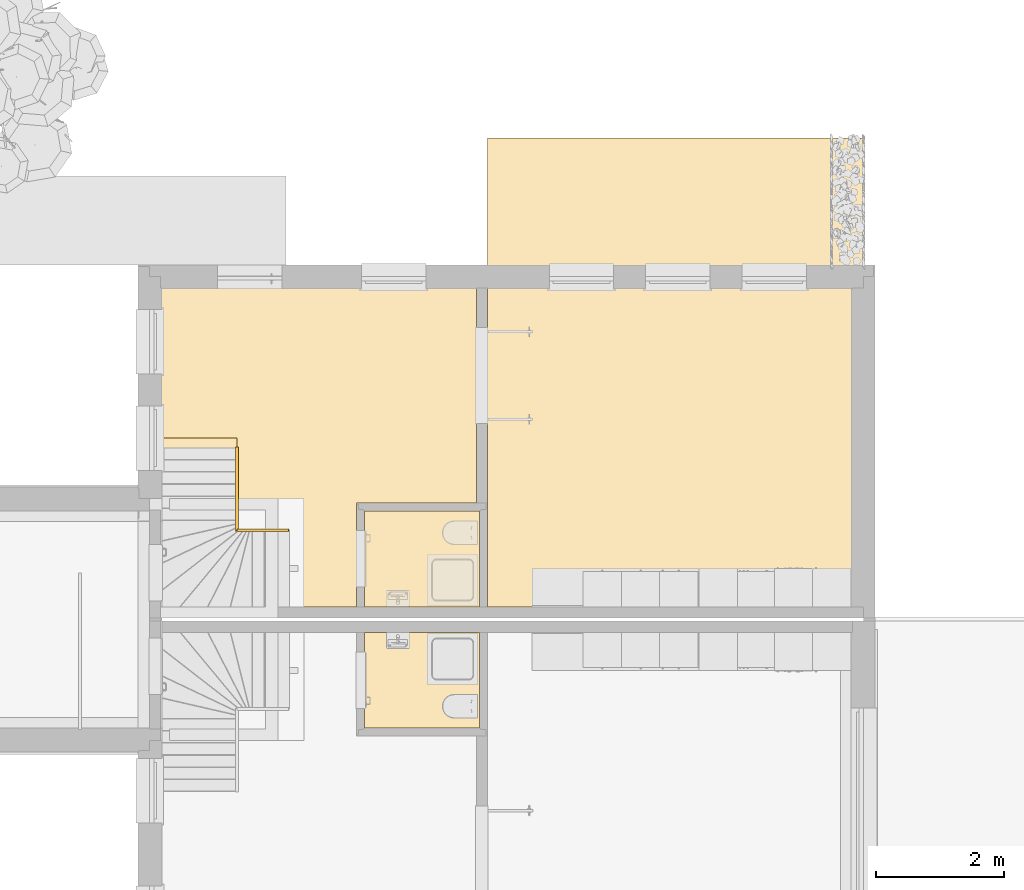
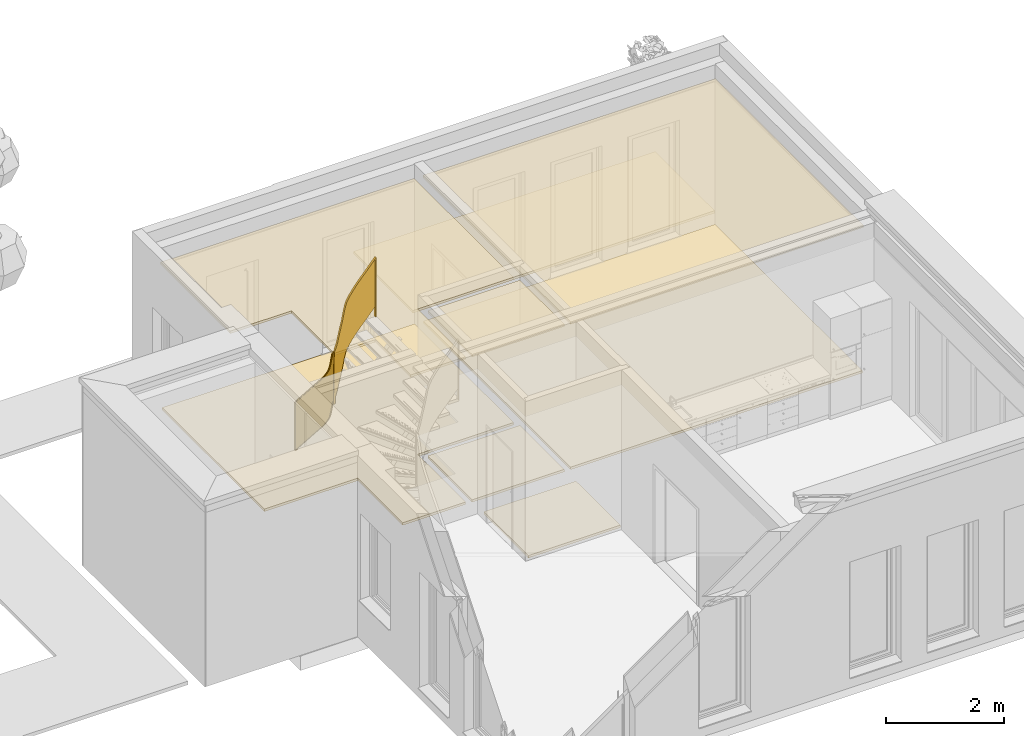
# One storey, part 11 of 28: 7 coverings, 1 railing.
"""IFC4 building model written with IfcOpenShell, lengths in metres."""

import ifcopenshell
import ifcopenshell.guid

model = None  # the IFC model being written
_history = None  # IfcOwnerHistory: only IFC2X3 demands one
_inside = {}  # id of a spatial element -> (the spatial element, [elements in it])
_under = {}  # id of a project, library or spatial element -> (it, [spatial elements below it])
_declared = {}  # id of a project -> (the project, [libraries it declares])
_typed = {}  # id of a type object -> (the type object, [elements of that type])
_made_of = {}  # id of a material, layer set ... -> (it, [elements and type objects made of it])


def new_model(schema):
    """Start an empty IFC model of exactly this schema.

    Asked for "IFC4X3", IfcOpenShell would pick the latest addendum, in which some entities
    have other attributes; the version numbers below select the first issue.
    IFC2X3 requires an IfcOwnerHistory on every rooted entity: one is made here for all.
    """
    global model, _history
    if schema == "IFC4X3":
        model = ifcopenshell.file(schema_version=(4, 3, 0, 0))
    else:
        model = ifcopenshell.file(schema=schema)
    _inside.clear()
    _under.clear()
    _declared.clear()
    _typed.clear()
    _made_of.clear()
    _history = None
    if model.schema == "IFC2X3":
        org = make("IfcOrganization", Name="unknown")
        user = make(
            "IfcPersonAndOrganization",
            ThePerson=make("IfcPerson", FamilyName="unknown"),
            TheOrganization=org,
        )
        app = make(
            "IfcApplication",
            ApplicationDeveloper=org,
            Version="unknown",
            ApplicationFullName="unknown",
            ApplicationIdentifier="unknown",
        )
        _history = make(
            "IfcOwnerHistory",
            OwningUser=user,
            OwningApplication=app,
            ChangeAction="ADDED",
            CreationDate=0,
        )
    return model


def make(cls, **values):
    """One entity of the class cls with the attributes given. An attribute that is None is left unset."""
    return model.create_entity(
        cls, **{name: value for name, value in values.items() if value is not None}
    )


def entity(cls, *values):
    """Any entity or typed value of the class cls, its attributes in the order of the schema. None: left unset."""
    e = model.create_entity(cls)
    for i, value in enumerate(values):
        if value is not None:
            e[i] = value
    return e


def rooted(cls, **values):
    """An entity with a GlobalId (a new one), such as an element, a storey or a relation."""
    return make(cls, GlobalId=ifcopenshell.guid.new(), OwnerHistory=_history, **values)


def si_unit(unit_type, name, prefix=None):
    """IfcSIUnit, for example si_unit("LENGTHUNIT", "METRE", prefix="MILLI")."""
    return make("IfcSIUnit", UnitType=unit_type, Prefix=prefix, Name=name)


def converted_unit(unit_type, name, factor, base, dimensions=None, offset=None):
    """IfcConversionBasedUnit, such as the inch: factor (a typed value) times the base unit."""
    return make(
        "IfcConversionBasedUnit"
        if offset is None
        else "IfcConversionBasedUnitWithOffset",
        ConversionOffset=offset,
        Dimensions=None
        if dimensions is None
        else entity("IfcDimensionalExponents", *dimensions),
        UnitType=unit_type,
        Name=name,
        ConversionFactor=make(
            "IfcMeasureWithUnit", ValueComponent=factor, UnitComponent=base
        ),
    )


def derived_unit(unit_type, elements):
    """IfcDerivedUnit: a product of units, each with its exponent."""
    return make(
        "IfcDerivedUnit",
        Elements=[
            make("IfcDerivedUnitElement", Unit=unit, Exponent=power)
            for unit, power in elements
        ],
        UnitType=unit_type,
    )


def assignment(units):
    """IfcUnitAssignment: the units of a project."""
    return None if units is None else make("IfcUnitAssignment", Units=units)


def point(xyz):
    """IfcCartesianPoint."""
    return None if xyz is None else make("IfcCartesianPoint", Coordinates=xyz)


def direction(xyz):
    """IfcDirection."""
    return None if xyz is None else make("IfcDirection", DirectionRatios=xyz)


def frame(location, z_axis=None, x_axis=None):
    """IfcAxis2Placement3D, a coordinate frame: its origin and axes. An axis left out is left unset."""
    return make(
        "IfcAxis2Placement3D",
        Location=point(location),
        Axis=direction(z_axis),
        RefDirection=direction(x_axis),
    )


def origin_with_axes():
    """The frame at (0, 0, 0) with the z axis (0, 0, 1) and the x axis (1, 0, 0) written out."""
    return frame((0.0, 0.0, 0.0), z_axis=(0.0, 0.0, 1.0), x_axis=(1.0, 0.0, 0.0))


def place(relative_to, where):
    """IfcLocalPlacement: puts the frame where relative to a parent placement (None: the world)."""
    return make(
        "IfcLocalPlacement", PlacementRelTo=relative_to, RelativePlacement=where
    )


def context(
    kind, dimensions, precision=None, world=None, true_north=None, identifier=None
):
    """IfcGeometricRepresentationContext, for example the 3D "Model" context."""
    return make(
        "IfcGeometricRepresentationContext",
        ContextIdentifier=identifier,
        ContextType=kind,
        CoordinateSpaceDimension=dimensions,
        Precision=precision,
        WorldCoordinateSystem=world,
        TrueNorth=true_north,
    )


def subcontext(parent, identifier, kind, view, scale=None):
    """IfcGeometricRepresentationSubContext, for example "Body" below "Model"."""
    return make(
        "IfcGeometricRepresentationSubContext",
        ContextIdentifier=identifier,
        ContextType=kind,
        ParentContext=parent,
        TargetScale=scale,
        TargetView=view,
    )


def project(units=None, contexts=None):
    """IfcProject with its units and contexts."""
    return rooted(
        "IfcProject",
        Name="project",
        RepresentationContexts=contexts,
        UnitsInContext=assignment(units),
    )


def spatial(cls, under=None, at=None, **own):
    """A site, building, storey or space (cls), placed at a placement, below another one or the project."""
    s = rooted(cls, ObjectPlacement=at, **own)
    if under is not None:
        _under.setdefault(under.id(), (under, []))[1].append(s)
    return s


def point_list(points):
    """IfcCartesianPointList2D or 3D."""
    cls = (
        "IfcCartesianPointList2D" if len(points[0]) == 2 else "IfcCartesianPointList3D"
    )
    return make(cls, CoordList=points)


def triangles(points, corners, closed=None, point_numbers=None):
    """IfcTriangulatedFaceSet: each triangle names its three corners, points numbered from 1."""
    return make(
        "IfcTriangulatedFaceSet",
        Coordinates=point_list(points),
        Closed=closed,
        CoordIndex=corners,
        PnIndex=point_numbers,
    )


def shape(context_of_items, identifier, shape_type, items):
    """IfcShapeRepresentation: the items that make up one representation, for example the "Body"."""
    return make(
        "IfcShapeRepresentation",
        ContextOfItems=context_of_items,
        RepresentationIdentifier=identifier,
        RepresentationType=shape_type,
        Items=items,
    )


def material(Name=None, Category=None):
    """IfcMaterial."""
    return make("IfcMaterial", Name=Name, Category=Category)


def constituent(of_material, Name=None, Category=None, fraction=None):
    """IfcMaterialConstituent: one of the materials an element consists of."""
    return make(
        "IfcMaterialConstituent",
        Name=Name,
        Material=of_material,
        Fraction=fraction,
        Category=Category,
    )


def constituent_set(constituents=None, Name=None):
    """IfcMaterialConstituentSet."""
    return make(
        "IfcMaterialConstituentSet", Name=Name, MaterialConstituents=constituents
    )


def made_of(thing, what):
    """Note that an element or type object is made of a material, layer set ...; save() writes the relation."""
    if what is not None:
        _made_of.setdefault(what.id(), (what, []))[1].append(thing)
    return thing


def type_object(cls, material=None, **own):
    """A type object (cls), such as IfcWallType, which elements share."""
    return made_of(rooted(cls, **own), material)


def element(
    cls,
    number,
    at=None,
    inside=None,
    cuts=None,
    type_object=None,
    material=None,
    context=None,
    identifier="Body",
    shape_type=None,
    held_by="IfcProductDefinitionShape",
    body=None,
    shapes=None,
    **own,
):
    """One element of the class cls, such as IfcWall. Its Tag is "e" and its number.

    at: its placement. inside: the storey or other place that contains it. cuts: it is an
    opening in that element (IfcRelVoidsElement). A single representation is given by context,
    identifier, shape_type and body (its items); several are given by shapes. held_by: the class
    of the entity that holds the representations. save() writes the other relations.
    """
    e = rooted(cls, Tag="e%d" % number, ObjectPlacement=at, **own)
    if body is not None:
        shapes = [shape(context, identifier, shape_type, body)]
    if shapes is not None:
        e.Representation = make(held_by, Representations=shapes)
    if inside is not None:
        _inside.setdefault(inside.id(), (inside, []))[1].append(e)
    if cuts is not None:
        rooted(
            "IfcRelVoidsElement", RelatingBuildingElement=cuts, RelatedOpeningElement=e
        )
    if type_object is not None:
        _typed.setdefault(type_object.id(), (type_object, []))[1].append(e)
    return made_of(e, material)


def aggregate(whole, parts):
    """IfcRelAggregates: a whole, such as a stair, and the parts it consists of."""
    return rooted("IfcRelAggregates", RelatingObject=whole, RelatedObjects=parts)


def save(model, path):
    """Write the relations noted so far, then the file.

    IfcRelAggregates (storeys below a building ...), IfcRelContainedInSpatialStructure (elements
    in a storey), IfcRelDefinesByType, IfcRelAssociatesMaterial and IfcRelDeclares: one each for
    every whole, place, type object, material and project.
    """
    for whole, parts in _under.values():
        aggregate(whole, parts)
    for where, things in _inside.values():
        rooted(
            "IfcRelContainedInSpatialStructure",
            RelatedElements=things,
            RelatingStructure=where,
        )
    for kind, things in _typed.values():
        rooted("IfcRelDefinesByType", RelatedObjects=things, RelatingType=kind)
    for what, things in _made_of.values():
        rooted("IfcRelAssociatesMaterial", RelatedObjects=things, RelatingMaterial=what)
    for by, libraries in _declared.values():
        rooted("IfcRelDeclares", RelatingContext=by, RelatedDefinitions=libraries)
    model.write(path)


model = new_model("IFC4")

# Units and contexts
model_context = context("Model", 3, precision=1e-05, world=origin_with_axes(), true_north=direction((-0.526213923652, 0.850352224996)))
body_context = subcontext(model_context, "Body", "Model", "MODEL_VIEW")
ifc_project = project(units=[si_unit("LENGTHUNIT", "METRE"), si_unit("AREAUNIT", "SQUARE_METRE"), si_unit("VOLUMEUNIT", "CUBIC_METRE"), converted_unit("PLANEANGLEUNIT", "DEGREE", entity("IfcPlaneAngleMeasure", 0.0174532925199), si_unit("PLANEANGLEUNIT", "RADIAN"), dimensions=[0, 0, 0, 0, 0, 0, 0]), si_unit("SOLIDANGLEUNIT", "STERADIAN"), converted_unit("TIMEUNIT", "Year", entity("IfcTimeMeasure", 31556926.0), si_unit("TIMEUNIT", "SECOND"), dimensions=[0, 0, 1, 0, 0, 0, 0]), si_unit("MASSUNIT", "GRAM", prefix="KILO"), si_unit("THERMODYNAMICTEMPERATUREUNIT", "DEGREE_CELSIUS"), si_unit("LUMINOUSINTENSITYUNIT", "LUMEN"), si_unit("ENERGYUNIT", "JOULE", prefix="MEGA"), derived_unit("THERMALCONDUCTANCEUNIT", [(si_unit("POWERUNIT", "WATT"), 1), (si_unit("LENGTHUNIT", "METRE"), -1), (si_unit("THERMODYNAMICTEMPERATUREUNIT", "KELVIN"), -1)]), derived_unit("SPECIFICHEATCAPACITYUNIT", [(si_unit("ENERGYUNIT", "JOULE"), 1), (si_unit("MASSUNIT", "GRAM", prefix="KILO"), -1), (si_unit("THERMODYNAMICTEMPERATUREUNIT", "KELVIN"), -1)]), derived_unit("MASSDENSITYUNIT", [(si_unit("MASSUNIT", "GRAM", prefix="KILO"), 1), (si_unit("VOLUMEUNIT", "CUBIC_METRE"), -1)])], contexts=[model_context])

# Site, building, storey, space
site_placement = place(None, origin_with_axes())
site = spatial("IfcSite", under=ifc_project, at=site_placement, Name="Gelände", CompositionType="ELEMENT")
building_placement = place(site_placement, origin_with_axes())
building = spatial("IfcBuilding", under=site, at=building_placement, Name="Haus vom Nikolaus", CompositionType="ELEMENT")
storey_placement = place(building_placement, origin_with_axes())
storey = spatial("IfcBuildingStorey", under=building, at=storey_placement, Name="EG", CompositionType="ELEMENT", Elevation=0.0)
space_placement = place(storey_placement, frame((-3.09538684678, 5.36483190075, 0.0), z_axis=(0.0, 0.0, 1.0), x_axis=(1.0, 0.0, 0.0)))
space = spatial("IfcSpace", under=storey, at=space_placement, Name="EG", CompositionType="ELEMENT")

# Railing
ifc_material_1 = material(Name="Metall, Stahl lackiert")
ifc_constituent_1 = constituent(ifc_material_1, Name="Component 1 in Geländer-Pfosten-001")
ifc_constituent_2 = constituent(ifc_material_1, Name="Component 1 in Geländer-Pfosten-001")
ifc_constituent_3 = constituent(ifc_material_1, Name="Component 1 in Geländer-Pfosten-001")
ifc_constituent_4 = constituent(ifc_material_1, Name="Component 1 in Geländer-Handlauf-001")
ifc_material_2 = material(Name="Glas, Normalglas")
ifc_constituent_5 = constituent(ifc_material_2, Name="Component 1 in Geländer-Paneel-001")
ifc_constituent_6 = constituent(ifc_material_1, Name="Component 1 in Geländer-Handlauf-001")
ifc_constituent_7 = constituent(ifc_material_2, Name="Component 1 in Geländer-Paneel-001")
ifc_constituent_set_1 = constituent_set(constituents=[ifc_constituent_1, ifc_constituent_2, ifc_constituent_3, ifc_constituent_4, ifc_constituent_5, ifc_constituent_6, ifc_constituent_7])
railing_type = type_object("IfcRailingType", Name="Geländerart", PredefinedType="NOTDEFINED")
railing_placement = place(space_placement, frame((4.53538446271, 4.93519889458, 0.2), z_axis=(0.0, 0.0, 1.0), x_axis=(1.0, 0.0, 0.0)))
element("IfcRailing", 1, at=railing_placement, inside=space, type_object=railing_type, material=ifc_constituent_set_1, Name="Geländer-003", PredefinedType="NOTDEFINED", context=body_context, shape_type="Tessellation", body=[
    triangles([(0.0228843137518, -0.167698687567, 1.22623247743), (-0.0221156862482, -0.167698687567, 0.217647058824), (0.0228843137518, -0.167698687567, 0.217647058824), (-0.0221156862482, -0.167698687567, 1.22623247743), (0.0228843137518, -0.152698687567, 0.217647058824), (-0.0221156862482, -0.152698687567, 0.217647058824), (0.0228843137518, -0.152698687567, 1.20906164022), (-0.0221156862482, -0.152698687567, 1.20906164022)], [[1, 2, 3], [1, 4, 2], [5, 2, 6], [5, 3, 2], [7, 3, 5], [7, 1, 3], [7, 4, 1], [7, 8, 4], [8, 2, 4], [2, 8, 6], [8, 5, 6], [8, 7, 5]], closed=True),
    triangles([(0.0198481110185, -1.45641113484, 3.07528367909), (-0.0221156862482, -1.46769876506, 1.95882352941), (0.0228843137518, -1.46769876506, 1.95882352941), (0.0228843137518, -1.45269876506, 1.95882352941), (-0.0221156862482, -1.45269876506, 1.95882352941), (0.0198481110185, -1.44141113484, 3.05868012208), (-0.0190794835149, -1.47898639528, 3.05488871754), (-0.0190794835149, -1.46398639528, 3.03828516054)], [[1, 2, 3], [4, 2, 5], [4, 3, 2], [1, 3, 6], [7, 2, 1], [7, 5, 2], [8, 4, 5], [6, 3, 4], [8, 1, 6], [1, 8, 7], [8, 5, 7], [6, 4, 8]], closed=True),
    triangles([(0.807500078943, -1.43769881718, 4.70858541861), (0.807500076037, -1.48269881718, 3.48235294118), (0.807500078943, -1.43769881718, 3.48235294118), (0.807500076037, -1.48269881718, 4.70858541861), (0.792500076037, -1.48269881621, 3.48235294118), (0.792500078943, -1.43769881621, 3.48235294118), (0.792500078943, -1.43769881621, 4.69141458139), (0.792500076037, -1.48269881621, 4.69141458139)], [[1, 2, 3], [1, 4, 2], [3, 5, 6], [5, 3, 2], [7, 3, 6], [7, 1, 3], [8, 1, 7], [1, 8, 4], [8, 2, 4], [2, 8, 5], [8, 6, 5], [8, 7, 6]], closed=True),
    triangles([(-0.0221156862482, -1.41002097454, 2.95882352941), (0.0228843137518, -1.45825174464, 3.0529832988), (0.0228843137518, -1.41002097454, 2.95882352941), (-0.0221156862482, -1.46214578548, 3.06058554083), (0.0228843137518, -1.47319547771, 3.04925529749), (-0.0221156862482, -1.47708951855, 3.05685753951), (0.0228843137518, -1.42414016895, 2.95348580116), (0.0228843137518, -1.34465327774, 2.65493017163), (0.0228843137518, -1.33046412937, 2.65983797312), (0.0228843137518, -1.36804933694, 2.73335897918), (0.0228843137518, -1.30098379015, 2.58518521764), (0.0228843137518, -1.25734850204, 2.4801020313), (0.0228843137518, -1.24470440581, 2.48819885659), (0.0228843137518, -1.19165868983, 2.38678134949), (0.0228843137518, -1.1225377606, 2.29646937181), (0.0228843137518, -1.11085293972, 2.30588235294), (0.0228843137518, -1.17956512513, 2.39566027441), (0.0228843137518, -1.02880457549, 2.1858611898), (0.0228843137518, -0.93194474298, 2.07828216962), (0.0228843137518, -1.01750654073, 2.19573059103), (0.0228843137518, -0.920722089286, 2.08823529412), (0.0228843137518, -0.160198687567, 1.21764705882), (0.0228843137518, -0.171495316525, 1.20777861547), (0.0228843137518, -1.35358863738, 2.7373564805), (0.0228843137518, -1.31452220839, 2.57862957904), (-0.0221156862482, -1.35358863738, 2.7373564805), (-0.0221156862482, -1.30098379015, 2.58518521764), (-0.0221156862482, -1.34465327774, 2.65493017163), (-0.0221156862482, -1.33046412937, 2.65983797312), (-0.0221156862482, -1.42414016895, 2.95348580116), (-0.0221156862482, -1.36804933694, 2.73335897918), (-0.0221156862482, -1.31452220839, 2.57862957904), (-0.0221156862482, -1.25734850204, 2.4801020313), (-0.0221156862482, -1.24470440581, 2.48819885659), (-0.0221156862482, -1.19165868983, 2.38678134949), (-0.0221156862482, -1.11085293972, 2.30588235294), (-0.0221156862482, -1.17956512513, 2.39566027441), (-0.0221156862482, -1.1225377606, 2.29646937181), (-0.0221156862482, -1.02880457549, 2.1858611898), (-0.0221156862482, -1.01750654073, 2.19573059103), (-0.0221156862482, -0.93194474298, 2.07828216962), (-0.0221156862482, -0.160198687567, 1.21764705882), (-0.0221156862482, -0.920722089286, 2.08823529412), (-0.0221156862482, -0.171495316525, 1.20777861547)], [[1, 2, 3], [2, 1, 4], [4, 5, 2], [4, 6, 5], [3, 2, 7], [7, 2, 5], [8, 9, 10], [11, 12, 13], [14, 13, 12], [15, 16, 14], [17, 14, 16], [18, 16, 15], [19, 20, 18], [20, 19, 21], [22, 19, 23], [16, 18, 20], [22, 21, 19], [10, 24, 7], [13, 14, 17], [25, 11, 8], [12, 11, 25], [9, 8, 11], [24, 10, 9], [3, 7, 24], [3, 26, 1], [3, 24, 26], [27, 28, 29], [30, 26, 31], [30, 4, 1], [31, 29, 28], [28, 27, 32], [32, 27, 33], [33, 34, 35], [36, 35, 37], [38, 36, 39], [39, 40, 41], [42, 41, 43], [41, 42, 44], [40, 39, 36], [43, 41, 40], [35, 36, 38], [37, 35, 34], [34, 33, 27], [26, 30, 1], [29, 31, 26], [4, 30, 6], [7, 5, 30], [30, 5, 6], [30, 10, 7], [30, 31, 10], [31, 8, 10], [31, 28, 8], [28, 25, 8], [28, 32, 25], [32, 12, 25], [32, 33, 12], [33, 14, 12], [33, 35, 14], [35, 15, 14], [35, 38, 15], [38, 18, 15], [38, 39, 18], [39, 19, 18], [39, 41, 19], [41, 23, 19], [41, 44, 23], [44, 22, 23], [44, 42, 22], [21, 42, 43], [21, 22, 42], [20, 43, 40], [20, 21, 43], [16, 40, 36], [16, 20, 40], [17, 36, 37], [17, 16, 36], [13, 37, 34], [13, 17, 37], [11, 34, 27], [11, 13, 34], [9, 27, 29], [9, 11, 27], [24, 29, 26], [24, 9, 29]], closed=True),
    triangles([(0.0103843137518, -0.920722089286, 1.08823529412), (0.0103843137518, -0.160198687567, 0.217647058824), (0.0103843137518, -0.160198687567, 1.20264705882), (0.0103843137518, -0.920722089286, 2.07323529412), (-0.00961568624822, -0.160198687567, 1.20264705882), (-0.00961568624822, -0.920722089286, 2.07323529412), (-0.00961568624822, -0.920722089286, 1.08823529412), (-0.00961568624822, -0.160198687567, 0.217647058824)], [[1, 2, 3], [1, 3, 4], [5, 4, 3], [5, 6, 4], [6, 1, 4], [6, 7, 1], [1, 8, 2], [1, 7, 8], [2, 5, 3], [2, 8, 5], [8, 7, 5], [5, 7, 6]], closed=True),
    triangles([(0.0103843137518, -1.01750654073, 2.18073059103), (0.0103843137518, -1.01750654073, 1.19573059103), (0.0103843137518, -0.920722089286, 2.07323529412), (0.0103843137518, -0.920722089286, 1.08823529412), (-0.00961568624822, -0.920722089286, 2.07323529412), (-0.00961568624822, -1.01750654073, 2.18073059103), (-0.00961568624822, -1.01750654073, 1.19573059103), (-0.00961568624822, -0.920722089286, 1.08823529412)], [[1, 2, 3], [4, 3, 2], [5, 1, 3], [5, 6, 1], [6, 2, 1], [6, 7, 2], [2, 8, 4], [2, 7, 8], [4, 5, 3], [4, 8, 5], [5, 7, 6], [5, 8, 7]], closed=True),
    triangles([(0.0103843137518, -1.11085293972, 2.29088235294), (0.0103843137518, -1.11085293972, 1.30588235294), (0.0103843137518, -1.01750654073, 2.18073059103), (0.0103843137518, -1.01750654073, 1.19573059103), (-0.00961568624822, -1.11085293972, 2.29088235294), (-0.00961568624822, -1.01750654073, 2.18073059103), (-0.00961568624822, -1.11085293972, 1.30588235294), (-0.00961568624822, -1.01750654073, 1.19573059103)], [[1, 2, 3], [4, 3, 2], [5, 3, 6], [3, 5, 1], [5, 2, 1], [5, 7, 2], [2, 8, 4], [2, 7, 8], [4, 6, 3], [4, 8, 6], [6, 7, 5], [6, 8, 7]], closed=True),
    triangles([(0.0103843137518, -1.17956512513, 2.38066027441), (0.0103843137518, -1.17956512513, 1.39566027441), (0.0103843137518, -1.11085293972, 2.29088235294), (0.0103843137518, -1.11085293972, 1.30588235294), (-0.00961568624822, -1.11085293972, 2.29088235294), (-0.00961568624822, -1.17956512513, 2.38066027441), (-0.00961568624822, -1.17956512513, 1.39566027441), (-0.00961568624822, -1.11085293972, 1.30588235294)], [[1, 2, 3], [4, 3, 2], [5, 1, 3], [5, 6, 1], [6, 2, 1], [6, 7, 2], [2, 8, 4], [2, 7, 8], [4, 5, 3], [4, 8, 5], [5, 7, 6], [5, 8, 7]], closed=True),
    triangles([(0.0103843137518, -1.24470440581, 2.47319885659), (0.0103843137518, -1.24470440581, 1.48819885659), (0.0103843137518, -1.17956512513, 2.38066027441), (0.0103843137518, -1.17956512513, 1.39566027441), (-0.00961568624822, -1.17956512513, 2.38066027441), (-0.00961568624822, -1.24470440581, 2.47319885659), (-0.00961568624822, -1.24470440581, 1.48819885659), (-0.00961568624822, -1.17956512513, 1.39566027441)], [[1, 2, 3], [4, 3, 2], [5, 1, 3], [5, 6, 1], [6, 2, 1], [6, 7, 2], [2, 8, 4], [2, 7, 8], [4, 5, 3], [4, 8, 5], [5, 7, 6], [5, 8, 7]], closed=True),
    triangles([(0.0103843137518, -1.30098379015, 2.57018521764), (0.0103843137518, -1.30098379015, 1.58518521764), (0.0103843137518, -1.24470440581, 2.47319885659), (0.0103843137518, -1.24470440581, 1.48819885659), (-0.00961568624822, -1.24470440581, 2.47319885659), (-0.00961568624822, -1.30098379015, 2.57018521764), (-0.00961568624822, -1.30098379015, 1.58518521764), (-0.00961568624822, -1.24470440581, 1.48819885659)], [[1, 2, 3], [4, 3, 2], [5, 1, 3], [5, 6, 1], [6, 2, 1], [6, 7, 2], [2, 8, 4], [2, 7, 8], [4, 5, 3], [4, 8, 5], [5, 7, 6], [5, 8, 7]], closed=True),
    triangles([(0.0103843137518, -1.33046412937, 2.64483797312), (0.0103843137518, -1.33046412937, 1.65983797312), (0.0103843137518, -1.30098379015, 2.57018521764), (0.0103843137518, -1.30098379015, 1.58518521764), (-0.00961568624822, -1.30098379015, 2.57018521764), (-0.00961568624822, -1.33046412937, 2.64483797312), (-0.00961568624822, -1.33046412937, 1.65983797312), (-0.00961568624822, -1.30098379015, 1.58518521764)], [[1, 2, 3], [4, 3, 2], [5, 1, 3], [5, 6, 1], [6, 2, 1], [6, 7, 2], [2, 8, 4], [2, 7, 8], [4, 5, 3], [4, 8, 5], [5, 7, 6], [5, 8, 7]], closed=True),
    triangles([(0.0103843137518, -1.35358863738, 2.7223564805), (0.0103843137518, -1.35358863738, 1.7373564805), (0.0103843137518, -1.33046412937, 2.64483797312), (0.0103843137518, -1.33046412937, 1.65983797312), (-0.00961568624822, -1.33046412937, 2.64483797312), (-0.00961568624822, -1.35358863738, 2.7223564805), (-0.00961568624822, -1.35358863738, 1.7373564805), (-0.00961568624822, -1.33046412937, 1.65983797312)], [[1, 2, 3], [4, 3, 2], [5, 1, 3], [5, 6, 1], [6, 2, 1], [6, 7, 2], [7, 4, 2], [4, 7, 8], [4, 5, 3], [4, 8, 5], [5, 7, 6], [5, 8, 7]], closed=True),
    triangles([(0.0103843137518, -1.41002097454, 2.94382352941), (0.0103843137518, -1.41002097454, 1.95882352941), (0.0103843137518, -1.35358863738, 2.7223564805), (0.0103843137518, -1.35358863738, 1.7373564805), (-0.00961568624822, -1.35358863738, 2.7223564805), (-0.00961568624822, -1.41002097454, 2.94382352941), (-0.00961568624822, -1.41002097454, 1.95882352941), (-0.00961568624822, -1.35358863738, 1.7373564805)], [[1, 2, 3], [4, 3, 2], [5, 1, 3], [5, 6, 1], [6, 2, 1], [6, 7, 2], [2, 8, 4], [2, 7, 8], [4, 5, 3], [4, 8, 5], [5, 7, 6], [5, 8, 7]], closed=True),
    triangles([(0.0103843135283, -1.41002097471, 1.95882352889), (0.0103843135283, -1.4100209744, 2.94382352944), (0.0103843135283, -1.4501987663, 2.03726166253), (0.0103843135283, -1.450198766, 3.02226166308), (-0.00961568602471, -1.41002097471, 1.95882352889), (-0.00961568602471, -1.47019876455, 2.07630717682), (-0.00961568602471, -1.4100209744, 2.94382352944), (-0.00961568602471, -1.47019876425, 3.06130717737)], [[1, 2, 3], [4, 3, 2], [3, 5, 1], [3, 6, 5], [1, 7, 2], [1, 5, 7], [7, 8, 4], [7, 4, 2], [6, 4, 8], [4, 6, 3], [6, 7, 5], [6, 8, 7]], closed=True),
    triangles([(0.0388815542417, -1.48269876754, 3.11735199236), (0.0172750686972, -1.43769876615, 3.05917934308), (0.0388815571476, -1.43769876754, 3.11735199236), (0.0133810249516, -1.4826987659, 3.04869514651), (0.00233133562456, -1.43769876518, 3.0620265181), (-0.00156270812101, -1.48269876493, 3.05154232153), (0.0536695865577, -1.4376987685, 3.21774214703), (0.0681844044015, -1.43769876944, 3.21391749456), (0.0902445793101, -1.43769877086, 3.31225967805), (0.0756048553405, -1.43769876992, 3.31552751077), (0.11194664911, -1.43769877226, 3.40996675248), (0.0246607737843, -1.43769876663, 3.12214561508), (0.0973355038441, -1.43769877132, 3.41336325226), (0.148167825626, -1.4376987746, 3.62267649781), (0.162818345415, -1.43769877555, 3.61944213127), (0.362143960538, -1.43769878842, 4.16344479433), (0.349965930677, -1.43769878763, 4.17220887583), (0.431465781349, -1.43769879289, 4.25534440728), (0.29714592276, -1.43769878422, 4.06871041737), (0.284339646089, -1.43769878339, 4.07655883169), (0.243433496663, -1.43769878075, 3.96999133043), (0.419738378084, -1.43769879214, 4.26470588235), (0.512854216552, -1.43769879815, 4.37501201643), (0.609869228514, -1.43769880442, 4.48235294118), (0.524152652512, -1.43769879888, 4.36514238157), (0.621082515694, -1.43769880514, 4.47238909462), (0.811296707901, -1.43769881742, 4.69013155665), (0.800000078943, -1.43769881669, 4.7), (0.204409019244, -1.43769877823, 3.82855958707), (0.189735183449, -1.43769877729, 3.83167672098), (0.220824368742, -1.43769877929, 3.90117963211), (0.229607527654, -1.43769877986, 3.97596563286), (0.206350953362, -1.43769877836, 3.9051834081), (0.0681844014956, -1.48269876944, 3.21391749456), (0.111946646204, -1.48269877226, 3.40996675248), (0.0756048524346, -1.48269876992, 3.31552751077), (0.0902445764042, -1.48269877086, 3.31225967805), (0.0536695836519, -1.4826987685, 3.21774214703), (0.0246607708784, -1.48269876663, 3.12214561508), (0.0973355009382, -1.48269877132, 3.41336325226), (0.204409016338, -1.48269877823, 3.82855958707), (0.14816782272, -1.4826987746, 3.62267649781), (0.162818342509, -1.48269877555, 3.61944213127), (0.189735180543, -1.48269877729, 3.83167672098), (0.220824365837, -1.48269877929, 3.90117963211), (0.243433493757, -1.48269878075, 3.96999133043), (0.206350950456, -1.48269877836, 3.9051834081), (0.229607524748, -1.48269877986, 3.97596563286), (0.284339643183, -1.48269878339, 4.07655883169), (0.297145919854, -1.48269878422, 4.06871041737), (0.349965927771, -1.48269878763, 4.17220887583), (0.431465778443, -1.48269879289, 4.25534440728), (0.362143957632, -1.48269878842, 4.16344479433), (0.419738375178, -1.48269879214, 4.26470588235), (0.512854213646, -1.48269879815, 4.37501201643), (0.524152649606, -1.48269879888, 4.36514238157), (0.609869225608, -1.48269880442, 4.48235294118), (0.811296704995, -1.48269881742, 4.69013155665), (0.621082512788, -1.48269880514, 4.47238909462), (0.800000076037, -1.48269881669, 4.7)], [[1, 2, 3], [2, 1, 4], [4, 5, 2], [4, 6, 5], [3, 7, 8], [9, 10, 11], [12, 2, 5], [8, 7, 9], [11, 10, 13], [11, 14, 15], [16, 17, 18], [17, 19, 20], [21, 20, 19], [22, 18, 17], [23, 18, 22], [24, 25, 23], [25, 24, 26], [18, 23, 25], [27, 24, 28], [29, 15, 14], [27, 26, 24], [29, 30, 31], [19, 17, 16], [32, 21, 33], [30, 29, 14], [20, 21, 32], [33, 31, 30], [31, 33, 21], [14, 11, 13], [10, 9, 7], [7, 3, 12], [12, 3, 2], [1, 8, 34], [8, 1, 3], [35, 36, 37], [38, 1, 34], [39, 4, 1], [36, 35, 40], [41, 42, 43], [42, 41, 44], [45, 44, 41], [46, 47, 45], [47, 46, 48], [49, 48, 46], [49, 50, 51], [52, 51, 53], [54, 52, 55], [55, 56, 57], [58, 57, 59], [59, 57, 56], [57, 58, 60], [56, 55, 52], [51, 52, 54], [53, 51, 50], [50, 49, 46], [44, 45, 47], [43, 42, 35], [40, 35, 42], [38, 37, 36], [37, 38, 34], [39, 1, 38], [4, 39, 6], [12, 5, 39], [39, 5, 6], [12, 38, 7], [38, 12, 39], [7, 36, 10], [36, 7, 38], [13, 36, 40], [13, 10, 36], [13, 42, 14], [42, 13, 40], [14, 44, 30], [44, 14, 42], [33, 44, 47], [33, 30, 44], [33, 48, 32], [48, 33, 47], [32, 49, 20], [49, 32, 48], [20, 51, 17], [51, 20, 49], [22, 51, 54], [22, 17, 51], [22, 55, 23], [55, 22, 54], [23, 57, 24], [57, 23, 55], [24, 60, 28], [60, 24, 57], [28, 58, 27], [28, 60, 58], [58, 26, 27], [58, 59, 26], [56, 26, 59], [26, 56, 25], [56, 18, 25], [56, 52, 18], [52, 16, 18], [52, 53, 16], [50, 16, 53], [16, 50, 19], [50, 21, 19], [50, 46, 21], [45, 21, 46], [21, 45, 31], [45, 29, 31], [45, 41, 29], [43, 29, 41], [29, 43, 15], [43, 11, 15], [43, 35, 11], [37, 11, 35], [11, 37, 9], [37, 8, 9], [37, 34, 8]], closed=True),
    triangles([(0.0103843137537, -1.45019876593, 2.08370811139), (0.0103843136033, -1.45019876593, 3.06870811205), (0.0246607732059, -1.45019876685, 2.12214561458), (0.0246607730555, -1.45019876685, 3.10714561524), (0.0246607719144, -1.4701987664, 2.12214561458), (-0.00961568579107, -1.47019876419, 2.02986072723), (-0.00961568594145, -1.47019876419, 3.01486072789), (0.024660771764, -1.4701987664, 3.10714561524)], [[1, 2, 3], [4, 3, 2], [5, 1, 3], [5, 6, 1], [2, 1, 7], [6, 7, 1], [7, 8, 2], [2, 8, 4], [8, 3, 4], [8, 5, 3], [5, 7, 6], [5, 8, 7]], closed=True),
    triangles([(0.0536695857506, -1.4501987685, 3.20274214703), (0.0536695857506, -1.4501987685, 2.21774214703), (0.0246607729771, -1.45019876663, 3.10714561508), (0.0246607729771, -1.45019876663, 2.12214561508), (0.0246607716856, -1.47019876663, 3.10714561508), (0.053669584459, -1.4701987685, 3.20274214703), (0.053669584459, -1.4701987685, 2.21774214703), (0.0246607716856, -1.47019876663, 2.12214561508)], [[1, 2, 3], [4, 3, 2], [5, 1, 3], [5, 6, 1], [6, 2, 1], [6, 7, 2], [2, 8, 4], [2, 7, 8], [4, 5, 3], [4, 8, 5], [5, 7, 6], [5, 8, 7]], closed=True),
    triangles([(0.0756048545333, -1.45019876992, 3.30052751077), (0.0756048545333, -1.45019876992, 2.31552751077), (0.0536695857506, -1.4501987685, 3.20274214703), (0.0536695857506, -1.4501987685, 2.21774214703), (0.053669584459, -1.4701987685, 3.20274214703), (0.0756048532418, -1.47019876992, 3.30052751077), (0.0756048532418, -1.47019876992, 2.31552751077), (0.053669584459, -1.4701987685, 2.21774214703)], [[1, 2, 3], [4, 3, 2], [5, 1, 3], [5, 6, 1], [6, 2, 1], [6, 7, 2], [7, 4, 2], [4, 7, 8], [4, 5, 3], [4, 8, 5], [5, 7, 6], [5, 8, 7]], closed=True),
    triangles([(0.0973355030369, -1.45019877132, 3.39836325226), (0.0973355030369, -1.45019877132, 2.41336325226), (0.0756048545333, -1.45019876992, 3.30052751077), (0.0756048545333, -1.45019876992, 2.31552751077), (0.0756048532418, -1.47019876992, 3.30052751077), (0.0973355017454, -1.47019877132, 3.39836325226), (0.0973355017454, -1.47019877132, 2.41336325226), (0.0756048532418, -1.47019876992, 2.31552751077)], [[1, 2, 3], [4, 3, 2], [5, 1, 3], [5, 6, 1], [6, 2, 1], [6, 7, 2], [2, 8, 4], [2, 7, 8], [4, 5, 3], [4, 8, 5], [5, 7, 6], [5, 8, 7]], closed=True),
    triangles([(0.148167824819, -1.4501987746, 3.60767649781), (0.148167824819, -1.4501987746, 2.62267649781), (0.0973355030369, -1.45019877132, 3.39836325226), (0.0973355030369, -1.45019877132, 2.41336325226), (0.148167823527, -1.4701987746, 3.60767649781), (0.0973355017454, -1.47019877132, 3.39836325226), (0.148167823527, -1.4701987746, 2.62267649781), (0.0973355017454, -1.47019877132, 2.41336325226)], [[1, 2, 3], [4, 3, 2], [5, 3, 6], [3, 5, 1], [5, 2, 1], [5, 7, 2], [7, 4, 2], [4, 7, 8], [4, 6, 3], [4, 8, 6], [6, 7, 5], [6, 8, 7]], closed=True),
    triangles([(0.189735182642, -1.45019877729, 3.81667672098), (0.189735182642, -1.45019877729, 2.83167672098), (0.148167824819, -1.4501987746, 3.60767649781), (0.148167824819, -1.4501987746, 2.62267649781), (0.18973518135, -1.47019877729, 3.81667672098), (0.148167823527, -1.4701987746, 3.60767649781), (0.18973518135, -1.47019877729, 2.83167672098), (0.148167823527, -1.4701987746, 2.62267649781)], [[1, 2, 3], [4, 3, 2], [5, 3, 6], [3, 5, 1], [5, 2, 1], [5, 7, 2], [2, 8, 4], [2, 7, 8], [4, 6, 3], [4, 8, 6], [6, 7, 5], [6, 8, 7]], closed=True),
    triangles([(0.206350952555, -1.45019877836, 3.8901834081), (0.206350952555, -1.45019877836, 2.9051834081), (0.189735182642, -1.45019877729, 3.81667672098), (0.189735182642, -1.45019877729, 2.83167672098), (0.18973518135, -1.47019877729, 3.81667672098), (0.206350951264, -1.47019877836, 3.8901834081), (0.206350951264, -1.47019877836, 2.9051834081), (0.18973518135, -1.47019877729, 2.83167672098)], [[1, 2, 3], [4, 3, 2], [5, 1, 3], [5, 6, 1], [6, 2, 1], [6, 7, 2], [2, 8, 4], [2, 7, 8], [4, 5, 3], [4, 8, 5], [5, 7, 6], [5, 8, 7]], closed=True),
    triangles([(0.229607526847, -1.45019877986, 3.96096563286), (0.229607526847, -1.45019877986, 2.97596563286), (0.206350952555, -1.45019877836, 3.8901834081), (0.206350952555, -1.45019877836, 2.9051834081), (0.206350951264, -1.47019877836, 3.8901834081), (0.229607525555, -1.47019877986, 3.96096563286), (0.229607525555, -1.47019877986, 2.97596563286), (0.206350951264, -1.47019877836, 2.9051834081)], [[1, 2, 3], [4, 3, 2], [5, 1, 3], [5, 6, 1], [6, 2, 1], [6, 7, 2], [2, 8, 4], [2, 7, 8], [4, 5, 3], [4, 8, 5], [5, 7, 6], [5, 8, 7]], closed=True),
    triangles([(0.284339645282, -1.45019878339, 4.06155883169), (0.284339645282, -1.45019878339, 3.07655883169), (0.229607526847, -1.45019877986, 3.96096563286), (0.229607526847, -1.45019877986, 2.97596563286), (0.284339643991, -1.47019878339, 4.06155883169), (0.229607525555, -1.47019877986, 3.96096563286), (0.284339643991, -1.47019878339, 3.07655883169), (0.229607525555, -1.47019877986, 2.97596563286)], [[1, 2, 3], [4, 3, 2], [5, 3, 6], [3, 5, 1], [7, 1, 5], [1, 7, 2], [2, 8, 4], [2, 7, 8], [4, 6, 3], [4, 8, 6], [6, 7, 5], [6, 8, 7]], closed=True),
    triangles([(0.349965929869, -1.45019878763, 4.15720887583), (0.349965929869, -1.45019878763, 3.17220887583), (0.284339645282, -1.45019878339, 4.06155883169), (0.284339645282, -1.45019878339, 3.07655883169), (0.349965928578, -1.47019878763, 4.15720887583), (0.284339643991, -1.47019878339, 4.06155883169), (0.349965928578, -1.47019878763, 3.17220887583), (0.284339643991, -1.47019878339, 3.07655883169)], [[1, 2, 3], [4, 3, 2], [5, 3, 6], [3, 5, 1], [5, 2, 1], [5, 7, 2], [7, 4, 2], [4, 7, 8], [4, 6, 3], [4, 8, 6], [6, 7, 5], [6, 8, 7]], closed=True),
    triangles([(0.419738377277, -1.45019879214, 4.24970588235), (0.419738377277, -1.45019879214, 3.26470588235), (0.349965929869, -1.45019878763, 4.15720887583), (0.349965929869, -1.45019878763, 3.17220887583), (0.349965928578, -1.47019878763, 4.15720887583), (0.419738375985, -1.47019879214, 4.24970588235), (0.419738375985, -1.47019879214, 3.26470588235), (0.349965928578, -1.47019878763, 3.17220887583)], [[1, 2, 3], [4, 3, 2], [5, 1, 3], [5, 6, 1], [6, 2, 1], [6, 7, 2], [2, 8, 4], [2, 7, 8], [4, 5, 3], [4, 8, 5], [5, 7, 6], [5, 8, 7]], closed=True),
    triangles([(0.512854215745, -1.45019879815, 4.36001201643), (0.512854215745, -1.45019879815, 3.37501201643), (0.419738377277, -1.45019879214, 4.24970588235), (0.419738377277, -1.45019879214, 3.26470588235), (0.512854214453, -1.47019879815, 4.36001201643), (0.419738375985, -1.47019879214, 4.24970588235), (0.512854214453, -1.47019879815, 3.37501201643), (0.419738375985, -1.47019879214, 3.26470588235)], [[1, 2, 3], [4, 3, 2], [5, 3, 6], [3, 5, 1], [5, 2, 1], [5, 7, 2], [2, 8, 4], [2, 7, 8], [4, 6, 3], [4, 8, 6], [6, 7, 5], [6, 8, 7]], closed=True),
    triangles([(0.609869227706, -1.45019880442, 4.46735294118), (0.609869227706, -1.45019880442, 3.48235294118), (0.512854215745, -1.45019879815, 4.36001201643), (0.512854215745, -1.45019879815, 3.37501201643), (0.609869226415, -1.47019880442, 4.46735294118), (0.512854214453, -1.47019879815, 4.36001201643), (0.609869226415, -1.47019880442, 3.48235294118), (0.512854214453, -1.47019879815, 3.37501201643)], [[1, 2, 3], [4, 3, 2], [5, 3, 6], [3, 5, 1], [5, 2, 1], [5, 7, 2], [7, 4, 2], [4, 7, 8], [4, 6, 3], [4, 8, 6], [6, 7, 5], [6, 8, 7]], closed=True),
    triangles([(0.800000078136, -1.45019881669, 4.685), (0.800000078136, -1.45019881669, 3.7), (0.609869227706, -1.45019880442, 4.46735294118), (0.609869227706, -1.45019880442, 3.48235294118), (0.800000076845, -1.47019881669, 4.685), (0.609869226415, -1.47019880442, 4.46735294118), (0.800000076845, -1.47019881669, 3.7), (0.609869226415, -1.47019880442, 3.48235294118)], [[1, 2, 3], [4, 3, 2], [5, 3, 6], [3, 5, 1], [5, 2, 1], [5, 7, 2], [7, 4, 2], [4, 7, 8], [4, 6, 3], [4, 8, 6], [6, 7, 5], [6, 8, 7]], closed=True),
])

# Coverings
ifc_material_3 = material(Name="Verputz, Kalkzement")
covering_type_1 = type_object("IfcCoveringType", Name="Verputz, Kalkzement 50", PredefinedType="NOTDEFINED")
covering_1_placement = place(space_placement, frame((5.33538446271, 2.27500007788, 3.15), z_axis=(0.0, 0.0, 1.0), x_axis=(1.0, 0.0, 0.0)))
element("IfcCovering", 2, at=covering_1_placement, inside=space, type_object=covering_type_1, material=ifc_material_3, Name="Decke-008", PredefinedType="CEILING", context=body_context, shape_type="Tessellation", body=[
    triangles([(-2.00000002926, 5.00000016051, 0.05), (2.95, 5.00000016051, 0.0), (-2.00000002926, 5.00000016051, 0.0), (2.95, 5.00000016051, 0.05), (0.0, 1.20000009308, 0.0), (1.075, 1.18886248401e-07, 0.0), (0.0, 0.0, 0.0), (-0.8, 2.64500010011, 0.0), (-2.00000002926, 2.64500010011, 0.0), (1.07500010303, 1.62500010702, 0.0), (2.95, 1.62499998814, 0.0), (-0.8, 1.20000009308, 0.0), (-2.00000002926, 2.64500010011, 0.05), (1.07500010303, 1.62500010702, 0.05), (2.95, 1.62499998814, 0.05), (-0.8, 2.64500010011, 0.05), (0.0, 1.20000009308, 0.05), (-0.8, 1.20000009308, 0.05), (1.075, 1.18886248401e-07, 0.05), (0.0, 0.0, 0.05)], [[1, 2, 3], [1, 4, 2], [5, 6, 7], [3, 2, 8], [3, 8, 9], [10, 2, 11], [2, 10, 8], [12, 8, 5], [5, 8, 10], [6, 5, 10], [1, 9, 13], [1, 3, 9], [14, 15, 4], [16, 1, 13], [17, 16, 18], [1, 16, 4], [14, 16, 17], [19, 17, 20], [14, 17, 19], [16, 14, 4], [11, 4, 15], [11, 2, 4], [9, 16, 13], [9, 8, 16], [10, 15, 14], [10, 11, 15], [6, 14, 19], [6, 10, 14], [7, 19, 20], [7, 6, 19], [5, 20, 17], [5, 7, 20], [12, 17, 18], [12, 5, 17], [8, 18, 16], [8, 12, 18]], closed=True),
])
covering_2_placement = place(space_placement, frame((8.33538446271, 3.7750001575, 3.15), z_axis=(0.0, 0.0, 1.0), x_axis=(1.0, 0.0, 0.0)))
element("IfcCovering", 3, at=covering_2_placement, inside=space, type_object=covering_type_1, material=ifc_material_3, Name="Decke-008", PredefinedType="CEILING", context=body_context, shape_type="Tessellation", body=[
    triangles([(-1.80000000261, 0.0, 0.0), (0.0, 0.0, 0.05), (0.0, 0.0, 0.0), (-1.80000000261, 0.0, 0.05), (0.0, -1.5000000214, 0.05), (0.0, -1.5000000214, 0.0), (-1.79999996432, -1.49999994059, 0.0), (-1.79999996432, -1.49999994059, 0.05)], [[1, 2, 3], [1, 4, 2], [3, 5, 6], [3, 2, 5], [7, 3, 6], [3, 7, 1], [7, 4, 1], [7, 8, 4], [8, 2, 4], [2, 8, 5], [6, 8, 7], [6, 5, 8]], closed=True),
])
covering_3_placement = place(space_placement, frame((8.46038446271, 2.27500017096, 3.2), z_axis=(0.0, 0.0, 1.0), x_axis=(1.0, 0.0, 0.0)))
element("IfcCovering", 4, at=covering_3_placement, inside=space, type_object=covering_type_1, material=ifc_material_3, Name="Decke-014", PredefinedType="CEILING", context=body_context, shape_type="Tessellation", body=[
    triangles([(0.0, 0.0, -0.05), (5.72, 0.0, 0.0), (0.0, 0.0, 0.0), (5.72, 0.0, -0.05), (5.72, 5.00000006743, 0.0), (0.0, 5.00000006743, 0.0), (0.0, 5.00000006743, -0.05), (5.72, 5.00000006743, -0.05)], [[1, 2, 3], [1, 4, 2], [3, 5, 6], [3, 2, 5], [7, 3, 6], [7, 1, 3], [1, 8, 4], [1, 7, 8], [4, 5, 2], [4, 8, 5], [8, 6, 5], [8, 7, 6]], closed=True),
])
ifc_material_4 = material(Name="Belag, Parkett")
ifc_constituent_8 = constituent(ifc_material_4, Name="Component 1")
ifc_constituent_set_2 = constituent_set(constituents=[ifc_constituent_8])
covering_type_2 = type_object("IfcCoveringType", Name="Belag, Parkett 50", PredefinedType="FLOORING")
covering_4_placement = place(space_placement, frame((3.33538446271, 3.79500011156, 0.2), z_axis=(0.0, 0.0, 1.0), x_axis=(1.0, 0.0, 0.0)))
element("IfcCovering", 5, at=covering_4_placement, inside=space, type_object=covering_type_2, material=ifc_constituent_set_2, Name="Decke-008", PredefinedType="FLOORING", context=body_context, shape_type="Tessellation", body=[
    triangles([(3.07500003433, -1.5199999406, 0.0), (1.84438219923, 0.0, 0.0), (1.84438219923, -1.5199999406, 0.0), (4.95, 3.46000004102, 0.0), (0.019999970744, 3.46000004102, 0.0), (3.07500003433, 0.105000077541, 0.0), (4.95, 0.105000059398, 0.0), (0.019999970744, 0.0, 0.0), (3.07500003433, 0.105000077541, -0.05), (4.95, 0.105000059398, -0.05), (4.95, 3.46000004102, -0.05), (0.019999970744, 3.46000004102, -0.05), (0.019999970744, 0.0, -0.05), (1.84438219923, 0.0, -0.05), (1.84438219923, -1.5199999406, -0.05), (3.07500003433, -1.5199999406, -0.05)], [[1, 2, 3], [4, 5, 6], [4, 6, 7], [2, 5, 8], [5, 2, 6], [2, 1, 6], [7, 9, 10], [7, 6, 9], [4, 10, 11], [4, 7, 10], [11, 5, 4], [11, 12, 5], [12, 8, 5], [12, 13, 8], [13, 2, 8], [13, 14, 2], [14, 3, 2], [14, 15, 3], [15, 1, 3], [15, 16, 1], [16, 6, 1], [16, 9, 6], [14, 13, 12], [9, 11, 10], [14, 16, 15], [11, 9, 12], [14, 12, 9], [16, 14, 9]], closed=True),
    triangles([(5.125, 0.105000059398, 0.0), (5.12500000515, -1.51999994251, 0.0), (10.825, -1.51999990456, 0.0), (10.825, 3.46000004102, 0.0), (5.125, 3.46000004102, 0.0), (5.12500000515, -1.51999994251, -0.05), (10.825, -1.51999990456, -0.05), (10.825, 3.46000004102, -0.05), (5.125, 3.46000004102, -0.05), (5.125, 0.105000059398, -0.05)], [[1, 2, 3], [1, 4, 5], [4, 1, 3], [3, 6, 7], [3, 2, 6], [4, 7, 8], [4, 3, 7], [8, 5, 4], [8, 9, 5], [5, 10, 1], [5, 9, 10], [10, 2, 1], [10, 6, 2], [8, 10, 9], [10, 8, 7], [10, 7, 6]], closed=True),
])
ifc_material_5 = material(Name="Holz, Brettschichtholz")
covering_type_3 = type_object("IfcCoveringType", Name="Holz, Brettschichtholz 50", PredefinedType="FLOORING")
covering_5_placement = place(space_placement, frame((8.46038446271, 7.61000015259, 0.2), z_axis=(0.0, 0.0, 1.0), x_axis=(1.0, 0.0, 0.0)))
element("IfcCovering", 6, at=covering_5_placement, inside=space, type_object=covering_type_3, material=ifc_material_5, Name="Decke-008", PredefinedType="FLOORING", context=body_context, shape_type="Tessellation", body=[
    triangles([(0.0, 0.0, -0.05), (5.895, 0.0, 0.0), (0.0, 0.0, 0.0), (5.895, 0.0, -0.05), (5.895, 2.015, 0.0), (0.0, 2.015, 0.0), (0.0, 2.015, -0.05), (5.895, 2.015, -0.05)], [[1, 2, 3], [1, 4, 2], [3, 5, 6], [3, 2, 5], [7, 3, 6], [7, 1, 3], [1, 8, 4], [1, 7, 8], [4, 5, 2], [4, 8, 5], [8, 6, 5], [8, 7, 6]], closed=True),
])
ifc_material_6 = material(Name="Belag, Fliesen weiß")
covering_type_4 = type_object("IfcCoveringType", Name="Belag, Fliesen weiß 50", PredefinedType="FLOORING")
for number, where, z_axis, x_axis, name in (
    (7, (6.5353844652, 2.27500017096, 0.2), (0.0, 0.0, 1.0), (1.0, 0.0, 0.0), "Decke-008"),
    (8, (6.53538446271, 0.375000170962, 0.2), (0.0, 0.0, 1.0), (1.0, 0.0, 0.0), "Decke-008"),
):
    element("IfcCovering", number, at=place(space_placement, frame(where, z_axis=z_axis, x_axis=x_axis)), inside=space, type_object=covering_type_4, material=ifc_material_6, Name=name, PredefinedType="FLOORING", context=body_context, shape_type="Tessellation", body=[
        triangles([(1.7999999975, 0.0, -0.05), (0.0, 0.0, 0.0), (0.0, 0.0, -0.05), (1.7999999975, 0.0, 0.0), (0.0, 1.5, 0.0), (0.0, 1.5, -0.05), (1.80000001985, 1.5, -0.05), (1.80000001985, 1.5, 0.0)], [[1, 2, 3], [1, 4, 2], [3, 5, 6], [3, 2, 5], [6, 1, 3], [6, 7, 1], [7, 4, 1], [7, 8, 4], [4, 5, 2], [4, 8, 5], [6, 8, 7], [6, 5, 8]], closed=True),
    ])

save(model, "model.ifc")
